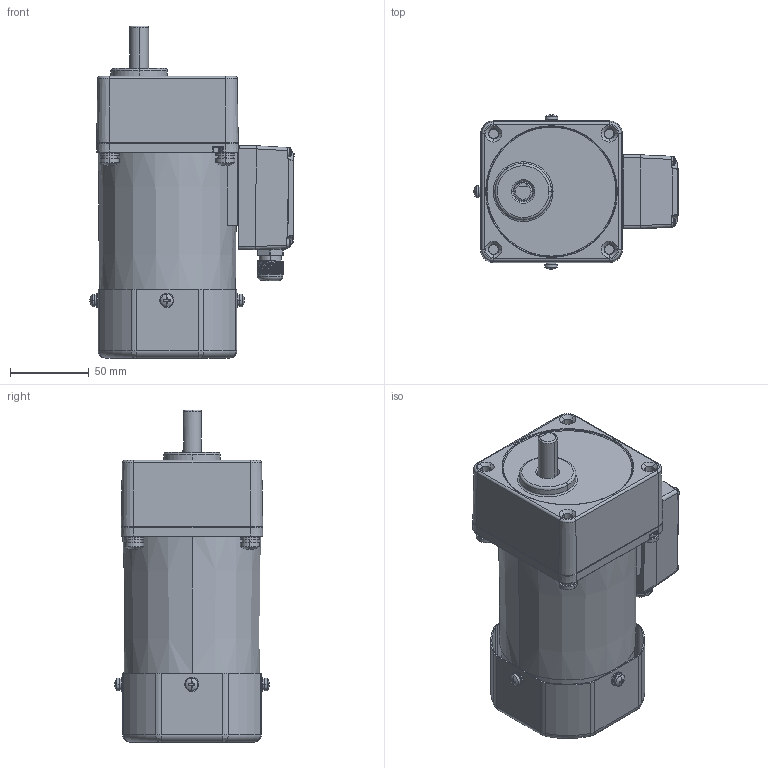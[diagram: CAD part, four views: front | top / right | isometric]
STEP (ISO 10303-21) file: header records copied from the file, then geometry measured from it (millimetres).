
FILE_DESCRIPTION (( 'STEP AP203' ), '1' );
FILE_NAME ('5IK60RGN-CFT(5GN3K-18K).STEP', '2023-08-08T05:46:01', ( 'Windows User' ), ( 'P R C' ), 'SwSTEP 2.0', 'SolidWorks 2019', '' );
FILE_SCHEMA (( 'CONFIG_CONTROL_DESIGN' ));
Length unit declared in the file: millimetre
Products named in the file (18): 葩璃 (3) ^_____5IK60RGN-CFT(5GN3K-18K)(2)_5IK60RGN-CFT(5GN3K-18K); 葩璃 (2) ^_____5IK60RGN-CFT(5GN3K-18K)(2)_5IK60RGN-CFT(5GN3K-18K); ^_____5IK60RGN-CFT(5GN3K-18K)(2)_5IK60RGN-CFT(5GN3K-18K); ^__5IK60RGN-CFT(5GN3K-18K)(2)_5IK60RGN-CFT(5GN3K-18K); ^____5IK60RGN-CFT(5GN3K-18K)(2)_5IK60RGN-CFT(5GN3K-18K); 葩璃 (3) ^_70TSJXHG____5IK60RGN-CFT(5GN3K-18K)(2)_5IK60RGN-CFT(5GN3K-18K); 5IK60RGN-CFT(5GN3K-18K)(2)^5IK60RGN-CFT(5GN3K-18K); ^___5IK60RGN-CFT(5GN3K-18K)(2)_5IK60RGN-CFT(5GN3K-18K); ^70TSJXHG____5IK60RGN-CFT(5GN3K-18K)(2)_5IK60RGN-CFT(5GN3K-18K); 70TSJXHG^___5IK60RGN-CFT(5GN3K-18K)(2)_5IK60RGN-CFT(5GN3K-18K); 5GN3K-18K^5IK60RGN-CFT(5GN3K-18K)(2)_5IK60RGN-CFT(5GN3K-18K); ^5IK60RGN-CFT(5GN3K-18K)(2)_5IK60RGN-CFT(5GN3K-18K); ^_5IK60RGN-CFT(5GN3K-18K)(2)_5IK60RGN-CFT(5GN3K-18K); ^_70TSJXHG____5IK60RGN-CFT(5GN3K-18K)(2)_5IK60RGN-CFT(5GN3K-18K); 5IK60RGN-CFT(5GN3K-18K); 葩璃 (2) ^_70TSJXHG____5IK60RGN-CFT(5GN3K-18K)(2)_5IK60RGN-CFT(5GN3K-18K)
Assembly tree (20 placements, depth 8):
  5IK60RGN-CFT(5GN3K-18K)
    5IK60RGN-CFT(5GN3K-18K)(2)^5IK60RGN-CFT(5GN3K-18K)
      ^5IK60RGN-CFT(5GN3K-18K)(2)_5IK60RGN-CFT(5GN3K-18K)
        ^_5IK60RGN-CFT(5GN3K-18K)(2)_5IK60RGN-CFT(5GN3K-18K)
          ^__5IK60RGN-CFT(5GN3K-18K)(2)_5IK60RGN-CFT(5GN3K-18K)
            70TSJXHG^___5IK60RGN-CFT(5GN3K-18K)(2)_5IK60RGN-CFT(5GN3K-18K)
              ^70TSJXHG____5IK60RGN-CFT(5GN3K-18K)(2)_5IK60RGN-CFT(5GN3K-18K)
                ^_70TSJXHG____5IK60RGN-CFT(5GN3K-18K)(2)_5IK60RGN-CFT(5GN3K-18K)
                葩璃 (2) ^_70TSJXHG____5IK60RGN-CFT(5GN3K-18K)(2)_5IK60RGN-CFT(5GN3K-18K)
                葩璃 (3) ^_70TSJXHG____5IK60RGN-CFT(5GN3K-18K)(2)_5IK60RGN-CFT(5GN3K-18K)  x4
            ^___5IK60RGN-CFT(5GN3K-18K)(2)_5IK60RGN-CFT(5GN3K-18K)
              ^____5IK60RGN-CFT(5GN3K-18K)(2)_5IK60RGN-CFT(5GN3K-18K)
                ^_____5IK60RGN-CFT(5GN3K-18K)(2)_5IK60RGN-CFT(5GN3K-18K)
                葩璃 (2) ^_____5IK60RGN-CFT(5GN3K-18K)(2)_5IK60RGN-CFT(5GN3K-18K)
                葩璃 (3) ^_____5IK60RGN-CFT(5GN3K-18K)(2)_5IK60RGN-CFT(5GN3K-18K)
            ^___5IK60RGN-CFT(5GN3K-18K)(2)_5IK60RGN-CFT(5GN3K-18K)
          ^__5IK60RGN-CFT(5GN3K-18K)(2)_5IK60RGN-CFT(5GN3K-18K)
      5GN3K-18K^5IK60RGN-CFT(5GN3K-18K)(2)_5IK60RGN-CFT(5GN3K-18K)
Bounding box: 129.69 x 98.11 x 211 mm (x, y, z)
Volume: 1098780.7 mm3; surface area: 167269.1 mm2
Topology: 54 solids, 54 shells, 2292 faces, 5899 edges, 3739 vertices
Faces by surface type: cylinder 874, plane 654, cone 512, torus 114, sphere 104, bspline 34
Entity records: 66033 total; most frequent: CARTESIAN_POINT 16654, DIRECTION 10637, ORIENTED_EDGE 9726, EDGE_CURVE 4863, AXIS2_PLACEMENT_3D 4373, VERTEX_POINT 3123, CIRCLE 2471, EDGE_LOOP 2050
